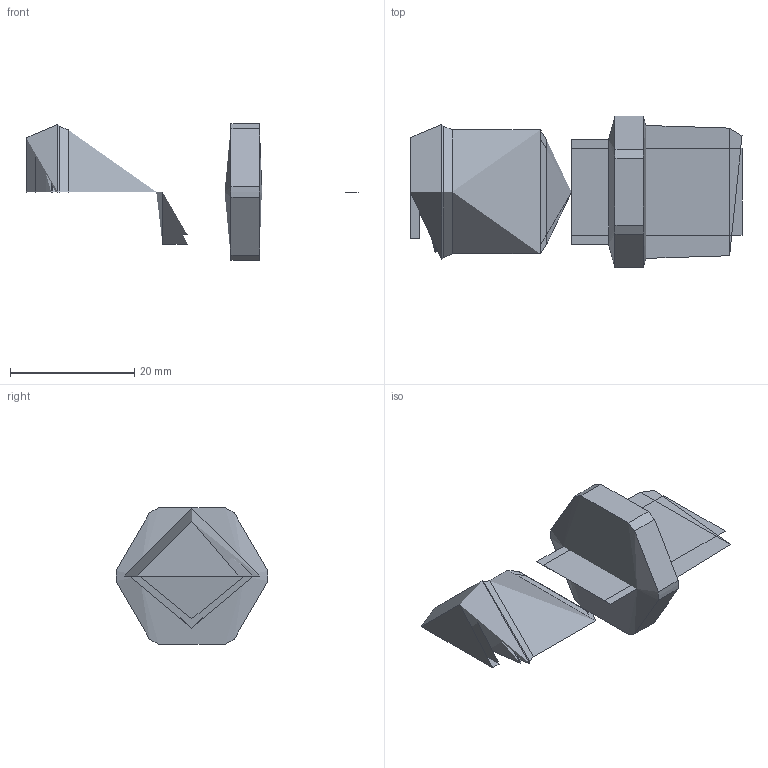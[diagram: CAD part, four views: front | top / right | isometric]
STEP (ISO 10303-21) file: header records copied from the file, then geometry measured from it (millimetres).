
FILE_DESCRIPTION(('FreeCAD Model'),'2;1');
FILE_NAME('Open CASCADE Shape Model','2025-10-20T15:01:36',('Author'),( ''),'Open CASCADE STEP processor 7.8','FreeCAD','Unknown');
FILE_SCHEMA(('AUTOMOTIVE_DESIGN { 1 0 10303 214 1 1 1 1 }'));
Length unit declared in the file: millimetre
Products named in the file (7): Unnamed171; COMPOUND; COMPOUND001; X-Achse; XY-Ebene; COMPOUND002; COMPOUND003
Assembly tree (18 placements, depth 3):
  Unnamed171
    COMPOUND
    COMPOUND001
      COMPOUND
    X-Achse  x6
    XY-Ebene  x6
    COMPOUND002
    COMPOUND003
      COMPOUND002
Bounding box: 53.5 x 24.47 x 22 mm (x, y, z)
Volume: 14431.1 mm3; surface area: 13749.3 mm2
Topology: 4 solids, 4 shells, 72 faces, 222 edges, 154 vertices
Faces by surface type: bspline 72
Entity records: 1762 total; most frequent: CARTESIAN_POINT 974, ORIENTED_EDGE 216, EDGE_CURVE 108, VERTEX_POINT 77, FACE_BOUND 41, EDGE_LOOP 41, DIRECTION 39, ADVANCED_FACE 36
